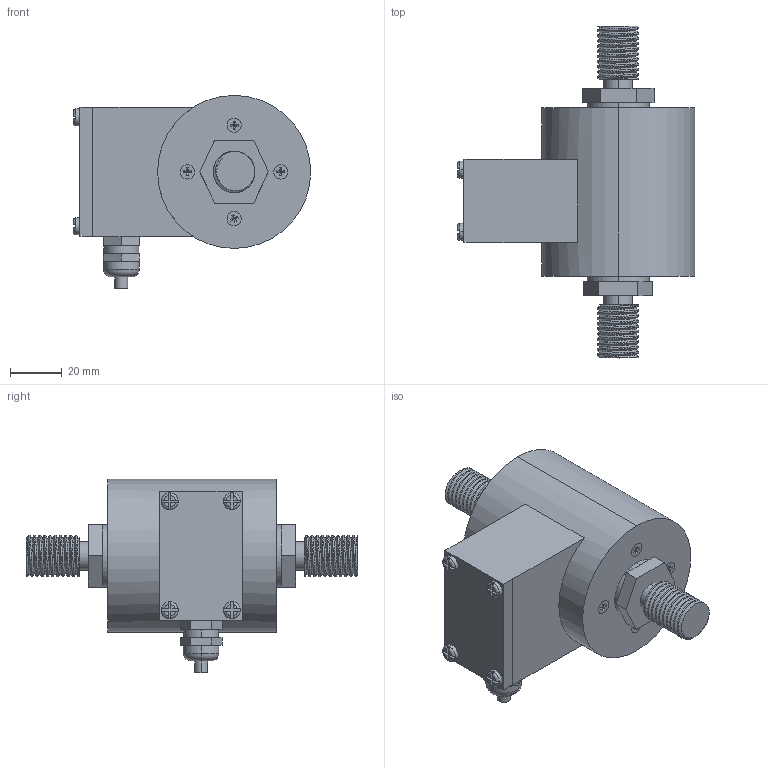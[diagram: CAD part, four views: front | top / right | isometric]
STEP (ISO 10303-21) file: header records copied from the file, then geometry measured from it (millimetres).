
FILE_DESCRIPTION (( 'STEP AP214' ), '1' );
FILE_NAME ('KT1101_K_10KN.STEP', '2014-04-23T14:10:03', ( '' ), ( '' ), 'SwSTEP 2.0', 'SolidWorks 2012', '' );
FILE_SCHEMA (( 'AUTOMOTIVE_DESIGN' ));
Length unit declared in the file: metre
Products named in the file (1): KT1101_K_10KN
Bounding box: 91.5 x 128 x 74.5 mm (x, y, z)
Volume: 249865.6 mm3; surface area: 30071.5 mm2
Topology: 1 solids, 1 shells, 267 faces, 638 edges, 399 vertices
Faces by surface type: plane 173, cylinder 72, torus 18, bspline 4
Entity records: 12806 total; most frequent: CARTESIAN_POINT 6089, ORIENTED_EDGE 1276, DIRECTION 1176, EDGE_CURVE 638, AXIS2_PLACEMENT_3D 401, VERTEX_POINT 399, VECTOR 374, LINE 374
